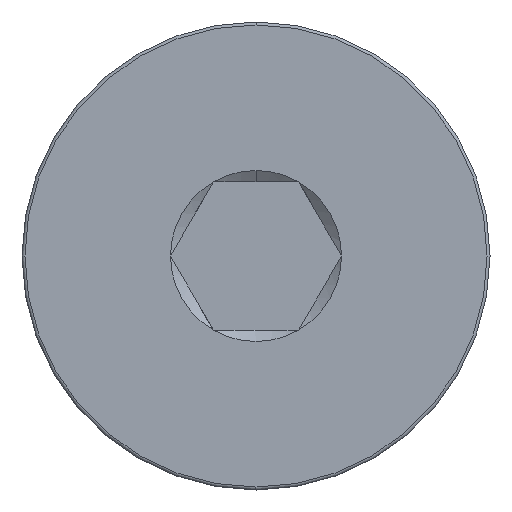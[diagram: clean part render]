
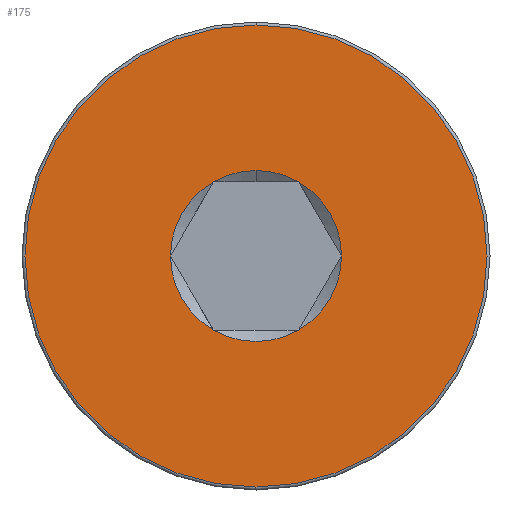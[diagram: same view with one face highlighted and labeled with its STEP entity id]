
A CAD part, left-side view. The second image highlights one B-rep face of the part: STEP entity #175.
In plain terms, the highlighted planar face has unit normal (-1, 0, 0).
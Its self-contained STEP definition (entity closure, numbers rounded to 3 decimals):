
#8 = CARTESIAN_POINT ( 'NONE',  ( 0., 1.443, 2.5 ) ) ;
#39 = AXIS2_PLACEMENT_3D ( 'NONE', #718, #650, #764 ) ;
#41 = VERTEX_POINT ( 'NONE', #108 ) ;
#43 = EDGE_CURVE ( 'NONE', #403, #677, #273, .T. ) ;
#47 = CARTESIAN_POINT ( 'NONE',  ( 0., 0., 0. ) ) ;
#50 = CARTESIAN_POINT ( 'NONE',  ( 0., 0., 2.887 ) ) ;
#91 = EDGE_CURVE ( 'NONE', #780, #330, #375, .T. ) ;
#95 = ORIENTED_EDGE ( 'NONE', *, *, #293, .T. ) ;
#99 = CARTESIAN_POINT ( 'NONE',  ( 0., 0., 0. ) ) ;
#103 = DIRECTION ( 'NONE',  ( 0., 0., -1. ) ) ;
#108 = CARTESIAN_POINT ( 'NONE',  ( 0., 0., 7.8 ) ) ;
#126 = DIRECTION ( 'NONE',  ( -1., 0., 0. ) ) ;
#135 = CIRCLE ( 'NONE', #444, 2.887 ) ;
#161 = DIRECTION ( 'NONE',  ( 0., 0., -1. ) ) ;
#175 = ADVANCED_FACE ( 'NONE', ( #501, #686 ), #305, .T. ) ;
#178 = EDGE_CURVE ( 'NONE', #330, #585, #404, .T. ) ;
#180 = VERTEX_POINT ( 'NONE', #196 ) ;
#188 = AXIS2_PLACEMENT_3D ( 'NONE', #248, #435, #578 ) ;
#196 = CARTESIAN_POINT ( 'NONE',  ( 0., 2.887, 0. ) ) ;
#197 = AXIS2_PLACEMENT_3D ( 'NONE', #315, #126, #625 ) ;
#206 = VERTEX_POINT ( 'NONE', #497 ) ;
#214 = DIRECTION ( 'NONE',  ( 1., 0., 0. ) ) ;
#242 = AXIS2_PLACEMENT_3D ( 'NONE', #47, #214, #103 ) ;
#243 = CARTESIAN_POINT ( 'NONE',  ( 0., 0., 0. ) ) ;
#248 = CARTESIAN_POINT ( 'NONE',  ( 0., 0., 0. ) ) ;
#252 = AXIS2_PLACEMENT_3D ( 'NONE', #99, #779, #161 ) ;
#270 = DIRECTION ( 'NONE',  ( -1., 0., 0. ) ) ;
#273 = CIRCLE ( 'NONE', #542, 2.887 ) ;
#293 = EDGE_CURVE ( 'NONE', #206, #780, #376, .T. ) ;
#294 = ORIENTED_EDGE ( 'NONE', *, *, #616, .T. ) ;
#305 = PLANE ( 'NONE',  #197 ) ;
#315 = CARTESIAN_POINT ( 'NONE',  ( 0., 0., 0. ) ) ;
#318 = EDGE_CURVE ( 'NONE', #41, #478, #747, .T. ) ;
#322 = AXIS2_PLACEMENT_3D ( 'NONE', #704, #270, #594 ) ;
#324 = EDGE_LOOP ( 'NONE', ( #463, #709 ) ) ;
#327 = CARTESIAN_POINT ( 'NONE',  ( 0., 0., 0. ) ) ;
#330 = VERTEX_POINT ( 'NONE', #653 ) ;
#332 = EDGE_CURVE ( 'NONE', #180, #403, #788, .T. ) ;
#344 = EDGE_CURVE ( 'NONE', #677, #206, #632, .T. ) ;
#345 = EDGE_LOOP ( 'NONE', ( #797, #349, #537, #95, #724, #715, #294 ) ) ;
#349 = ORIENTED_EDGE ( 'NONE', *, *, #43, .T. ) ;
#374 = DIRECTION ( 'NONE',  ( 1., 0., 0. ) ) ;
#375 = CIRCLE ( 'NONE', #743, 2.887 ) ;
#376 = CIRCLE ( 'NONE', #39, 2.887 ) ;
#394 = DIRECTION ( 'NONE',  ( 0., 0., 1. ) ) ;
#403 = VERTEX_POINT ( 'NONE', #8 ) ;
#404 = CIRCLE ( 'NONE', #188, 2.887 ) ;
#435 = DIRECTION ( 'NONE',  ( 1., 0., 0. ) ) ;
#444 = AXIS2_PLACEMENT_3D ( 'NONE', #652, #479, #525 ) ;
#463 = ORIENTED_EDGE ( 'NONE', *, *, #318, .T. ) ;
#478 = VERTEX_POINT ( 'NONE', #503 ) ;
#479 = DIRECTION ( 'NONE',  ( 1., 0., 0. ) ) ;
#488 = DIRECTION ( 'NONE',  ( 1., 0., 0. ) ) ;
#497 = CARTESIAN_POINT ( 'NONE',  ( 0., -1.443, 2.5 ) ) ;
#501 = FACE_BOUND ( 'NONE', #345, .T. ) ;
#503 = CARTESIAN_POINT ( 'NONE',  ( 0., 0., -7.8 ) ) ;
#507 = DIRECTION ( 'NONE',  ( 0., 0., -1. ) ) ;
#525 = DIRECTION ( 'NONE',  ( 0., 0., -1. ) ) ;
#537 = ORIENTED_EDGE ( 'NONE', *, *, #344, .T. ) ;
#542 = AXIS2_PLACEMENT_3D ( 'NONE', #243, #488, #737 ) ;
#578 = DIRECTION ( 'NONE',  ( 0., 0., -1. ) ) ;
#579 = CARTESIAN_POINT ( 'NONE',  ( 0., 1.443, -2.5 ) ) ;
#582 = EDGE_CURVE ( 'NONE', #478, #41, #659, .T. ) ;
#585 = VERTEX_POINT ( 'NONE', #579 ) ;
#594 = DIRECTION ( 'NONE',  ( 0., 0., 1. ) ) ;
#616 = EDGE_CURVE ( 'NONE', #585, #180, #135, .T. ) ;
#625 = DIRECTION ( 'NONE',  ( 0., 0., 1. ) ) ;
#632 = CIRCLE ( 'NONE', #242, 2.887 ) ;
#650 = DIRECTION ( 'NONE',  ( 1., 0., 0. ) ) ;
#652 = CARTESIAN_POINT ( 'NONE',  ( 0., 0., 0. ) ) ;
#653 = CARTESIAN_POINT ( 'NONE',  ( 0., -1.443, -2.5 ) ) ;
#659 = CIRCLE ( 'NONE', #684, 7.8 ) ;
#677 = VERTEX_POINT ( 'NONE', #50 ) ;
#684 = AXIS2_PLACEMENT_3D ( 'NONE', #327, #754, #394 ) ;
#686 = FACE_OUTER_BOUND ( 'NONE', #324, .T. ) ;
#704 = CARTESIAN_POINT ( 'NONE',  ( 0., 0., 0. ) ) ;
#709 = ORIENTED_EDGE ( 'NONE', *, *, #582, .T. ) ;
#715 = ORIENTED_EDGE ( 'NONE', *, *, #178, .T. ) ;
#718 = CARTESIAN_POINT ( 'NONE',  ( 0., 0., 0. ) ) ;
#724 = ORIENTED_EDGE ( 'NONE', *, *, #91, .T. ) ;
#737 = DIRECTION ( 'NONE',  ( 0., 0., -1. ) ) ;
#741 = CARTESIAN_POINT ( 'NONE',  ( 0., 0., 0. ) ) ;
#743 = AXIS2_PLACEMENT_3D ( 'NONE', #741, #374, #507 ) ;
#747 = CIRCLE ( 'NONE', #322, 7.8 ) ;
#754 = DIRECTION ( 'NONE',  ( -1., 0., 0. ) ) ;
#764 = DIRECTION ( 'NONE',  ( 0., 0., -1. ) ) ;
#772 = CARTESIAN_POINT ( 'NONE',  ( 0., -2.887, 0. ) ) ;
#779 = DIRECTION ( 'NONE',  ( 1., 0., 0. ) ) ;
#780 = VERTEX_POINT ( 'NONE', #772 ) ;
#788 = CIRCLE ( 'NONE', #252, 2.887 ) ;
#797 = ORIENTED_EDGE ( 'NONE', *, *, #332, .T. ) ;
